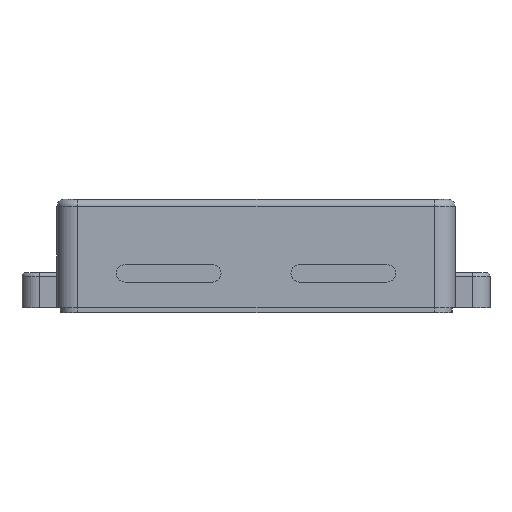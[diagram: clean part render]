
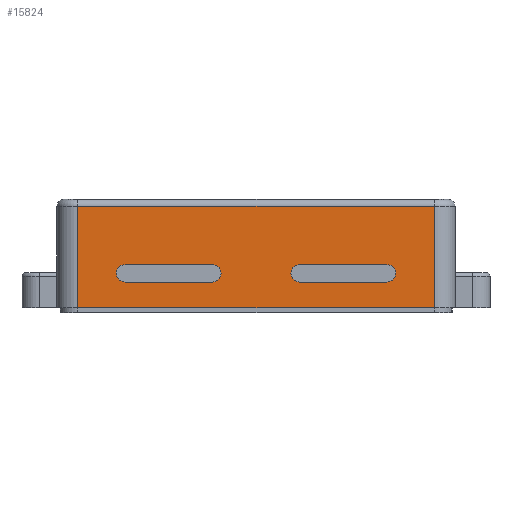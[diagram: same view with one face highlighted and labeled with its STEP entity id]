
A CAD part, left-side view. The second image highlights one B-rep face of the part: STEP entity #15824.
In plain terms, the highlighted planar face has unit normal (-1, 0, 0).
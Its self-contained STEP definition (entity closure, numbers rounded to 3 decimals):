
#1647=LINE('',#21575,#3008);
#2612=LINE('',#30643,#3973);
#2614=LINE('',#30649,#3975);
#2615=LINE('',#30650,#3976);
#2616=LINE('',#30655,#3977);
#2617=LINE('',#30658,#3978);
#2618=LINE('',#30661,#3979);
#2619=LINE('',#30665,#3980);
#3008=VECTOR('',#16935,10.);
#3973=VECTOR('',#18536,10.);
#3975=VECTOR('',#18542,10.);
#3976=VECTOR('',#18543,10.);
#3977=VECTOR('',#18546,10.);
#3978=VECTOR('',#18549,10.);
#3979=VECTOR('',#18550,10.);
#3980=VECTOR('',#18553,10.);
#4159=FACE_BOUND('',#5874,.T.);
#4160=FACE_BOUND('',#5875,.T.);
#4945=FACE_OUTER_BOUND('',#5873,.T.);
#5873=EDGE_LOOP('',(#14267,#14268,#14269,#14270));
#5874=EDGE_LOOP('',(#14271,#14272,#14273,#14274));
#5875=EDGE_LOOP('',(#14275,#14276,#14277,#14278));
#6038=CIRCLE('',#16331,2.5);
#6039=CIRCLE('',#16332,2.5);
#6040=CIRCLE('',#16333,2.5);
#6041=CIRCLE('',#16334,2.5);
#6468=VERTEX_POINT('',#21565);
#6470=VERTEX_POINT('',#21571);
#7561=VERTEX_POINT('',#30642);
#7563=VERTEX_POINT('',#30648);
#7564=VERTEX_POINT('',#30651);
#7565=VERTEX_POINT('',#30652);
#7566=VERTEX_POINT('',#30654);
#7567=VERTEX_POINT('',#30656);
#7568=VERTEX_POINT('',#30659);
#7569=VERTEX_POINT('',#30660);
#7570=VERTEX_POINT('',#30662);
#7571=VERTEX_POINT('',#30664);
#8164=EDGE_CURVE('',#6468,#6470,#1647,.T.);
#9821=EDGE_CURVE('',#6470,#7561,#2612,.T.);
#9824=EDGE_CURVE('',#6468,#7563,#2614,.T.);
#9825=EDGE_CURVE('',#7561,#7563,#2615,.T.);
#9826=EDGE_CURVE('',#7564,#7565,#6038,.T.);
#9827=EDGE_CURVE('',#7565,#7566,#2616,.T.);
#9828=EDGE_CURVE('',#7566,#7567,#6039,.T.);
#9829=EDGE_CURVE('',#7567,#7564,#2617,.T.);
#9830=EDGE_CURVE('',#7568,#7569,#2618,.T.);
#9831=EDGE_CURVE('',#7569,#7570,#6040,.T.);
#9832=EDGE_CURVE('',#7570,#7571,#2619,.T.);
#9833=EDGE_CURVE('',#7571,#7568,#6041,.T.);
#14267=ORIENTED_EDGE('',*,*,#9824,.T.);
#14268=ORIENTED_EDGE('',*,*,#9825,.F.);
#14269=ORIENTED_EDGE('',*,*,#9821,.F.);
#14270=ORIENTED_EDGE('',*,*,#8164,.F.);
#14271=ORIENTED_EDGE('',*,*,#9826,.T.);
#14272=ORIENTED_EDGE('',*,*,#9827,.T.);
#14273=ORIENTED_EDGE('',*,*,#9828,.T.);
#14274=ORIENTED_EDGE('',*,*,#9829,.T.);
#14275=ORIENTED_EDGE('',*,*,#9830,.T.);
#14276=ORIENTED_EDGE('',*,*,#9831,.T.);
#14277=ORIENTED_EDGE('',*,*,#9832,.T.);
#14278=ORIENTED_EDGE('',*,*,#9833,.T.);
#15009=PLANE('',#16330);
#15824=ADVANCED_FACE('',(#4945,#4159,#4160),#15009,.T.);
#16330=AXIS2_PLACEMENT_3D('',#30647,#18540,#18541);
#16331=AXIS2_PLACEMENT_3D('',#30653,#18544,#18545);
#16332=AXIS2_PLACEMENT_3D('',#30657,#18547,#18548);
#16333=AXIS2_PLACEMENT_3D('',#30663,#18551,#18552);
#16334=AXIS2_PLACEMENT_3D('',#30666,#18554,#18555);
#16935=DIRECTION('',(0.,-1.,0.));
#18536=DIRECTION('',(0.,0.,-1.));
#18540=DIRECTION('center_axis',(-1.,0.,0.));
#18541=DIRECTION('ref_axis',(0.,1.,0.));
#18542=DIRECTION('',(0.,0.,-1.));
#18543=DIRECTION('',(0.,1.,0.));
#18544=DIRECTION('center_axis',(1.,0.,0.));
#18545=DIRECTION('ref_axis',(0.,0.,-1.));
#18546=DIRECTION('',(0.,1.,0.));
#18547=DIRECTION('center_axis',(1.,0.,0.));
#18548=DIRECTION('ref_axis',(0.,0.,1.));
#18549=DIRECTION('',(0.,-1.,0.));
#18550=DIRECTION('',(0.,1.,0.));
#18551=DIRECTION('center_axis',(1.,0.,0.));
#18552=DIRECTION('ref_axis',(0.,0.,1.));
#18553=DIRECTION('',(0.,-1.,0.));
#18554=DIRECTION('center_axis',(1.,0.,0.));
#18555=DIRECTION('ref_axis',(0.,0.,-1.));
#21565=CARTESIAN_POINT('',(-25.751,8.987,35.));
#21571=CARTESIAN_POINT('',(-25.751,-92.988,35.));
#21575=CARTESIAN_POINT('',(-25.751,-67.494,35.));
#30642=CARTESIAN_POINT('',(-25.751,-92.988,6.));
#30643=CARTESIAN_POINT('',(-25.751,-92.988,32.));
#30647=CARTESIAN_POINT('Origin',(-25.751,-92.988,32.));
#30648=CARTESIAN_POINT('',(-25.751,8.987,6.));
#30649=CARTESIAN_POINT('',(-25.751,8.987,32.));
#30650=CARTESIAN_POINT('',(-25.751,-67.494,6.));
#30651=CARTESIAN_POINT('',(-25.751,-29.5,18.34));
#30652=CARTESIAN_POINT('',(-25.751,-29.5,13.34));
#30653=CARTESIAN_POINT('Origin',(-25.751,-29.5,15.84));
#30654=CARTESIAN_POINT('',(-25.751,-4.5,13.34));
#30655=CARTESIAN_POINT('',(-25.751,-61.244,13.34));
#30656=CARTESIAN_POINT('',(-25.751,-4.5,18.34));
#30657=CARTESIAN_POINT('Origin',(-25.751,-4.5,15.84));
#30658=CARTESIAN_POINT('',(-25.751,-48.744,18.34));
#30659=CARTESIAN_POINT('',(-25.751,-79.5,13.34));
#30660=CARTESIAN_POINT('',(-25.751,-54.5,13.34));
#30661=CARTESIAN_POINT('',(-25.751,-86.244,13.34));
#30662=CARTESIAN_POINT('',(-25.751,-54.5,18.34));
#30663=CARTESIAN_POINT('Origin',(-25.751,-54.5,15.84));
#30664=CARTESIAN_POINT('',(-25.751,-79.5,18.34));
#30665=CARTESIAN_POINT('',(-25.751,-73.744,18.34));
#30666=CARTESIAN_POINT('Origin',(-25.751,-79.5,15.84));
